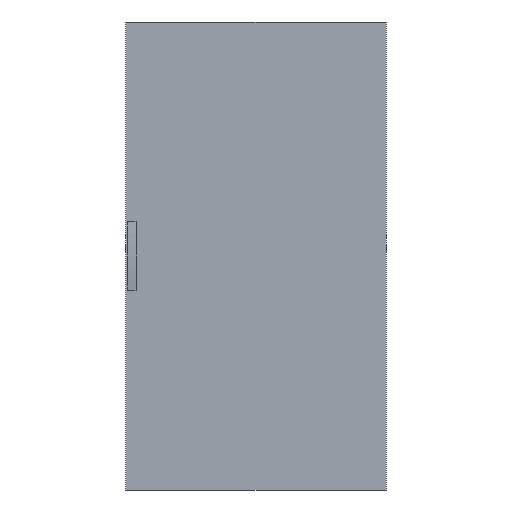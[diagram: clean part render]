
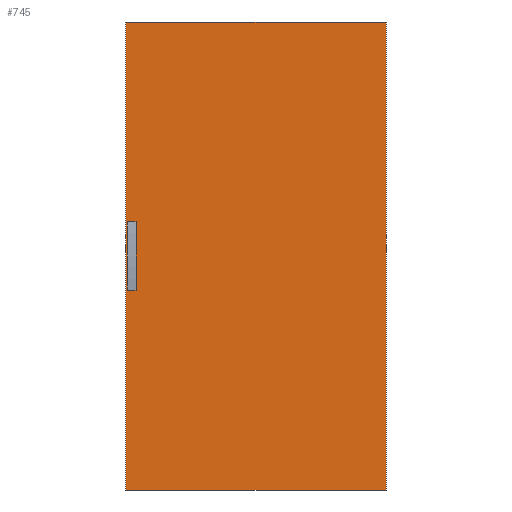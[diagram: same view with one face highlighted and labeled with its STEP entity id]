
A CAD part, front view. The second image highlights one B-rep face of the part: STEP entity #745.
In plain terms, the highlighted planar face has unit normal (0, -1, 0).
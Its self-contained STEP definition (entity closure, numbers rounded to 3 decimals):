
#21=DIRECTION('',(0.,0.,-1.));
#22=VECTOR('',#21,1784.);
#23=CARTESIAN_POINT('',(-496.,-2.,892.));
#24=LINE('',#23,#22);
#29=DIRECTION('',(-1.,0.,0.));
#30=VECTOR('',#29,992.);
#31=CARTESIAN_POINT('',(496.,-2.,892.));
#32=LINE('',#31,#30);
#36=DIRECTION('',(0.,0.,1.));
#37=VECTOR('',#36,1784.);
#38=CARTESIAN_POINT('',(496.,-2.,-892.));
#39=LINE('',#38,#37);
#43=DIRECTION('',(1.,0.,0.));
#44=VECTOR('',#43,992.);
#45=CARTESIAN_POINT('',(-496.,-2.,-892.));
#46=LINE('',#45,#44);
#50=CARTESIAN_POINT('',(-474.,-2.,123.));
#51=DIRECTION('',(0.,1.,0.));
#52=DIRECTION('',(1.,0.,0.));
#53=AXIS2_PLACEMENT_3D('',#50,#51,#52);
#58=CARTESIAN_POINT('',(-474.,-2.,123.));
#59=DIRECTION('',(0.,1.,0.));
#60=DIRECTION('',(0.,0.,1.));
#61=AXIS2_PLACEMENT_3D('',#58,#59,#60);
#66=CARTESIAN_POINT('',(-474.,-2.,123.));
#67=DIRECTION('',(0.,1.,0.));
#68=DIRECTION('',(0.,0.,-1.));
#69=AXIS2_PLACEMENT_3D('',#66,#67,#68);
#74=DIRECTION('',(1.,0.,0.));
#75=VECTOR('',#74,6.5);
#76=CARTESIAN_POINT('',(-486.5,-2.,25.));
#77=LINE('',#76,#75);
#81=DIRECTION('',(0.,0.,1.));
#82=VECTOR('',#81,50.);
#83=CARTESIAN_POINT('',(-486.5,-2.,-25.));
#84=LINE('',#83,#82);
#88=DIRECTION('',(-1.,0.,0.));
#89=VECTOR('',#88,6.5);
#90=CARTESIAN_POINT('',(-480.,-2.,-25.));
#91=LINE('',#90,#89);
#95=DIRECTION('',(0.,0.,1.));
#96=VECTOR('',#95,37.);
#97=CARTESIAN_POINT('',(-480.,-2.,-62.));
#98=LINE('',#97,#96);
#102=CARTESIAN_POINT('',(-474.,-2.,-62.));
#103=DIRECTION('',(0.,1.,0.));
#104=DIRECTION('',(0.,0.,-1.));
#105=AXIS2_PLACEMENT_3D('',#102,#103,#104);
#110=CARTESIAN_POINT('',(-474.,-2.,-62.));
#111=DIRECTION('',(0.,1.,0.));
#112=DIRECTION('',(1.,0.,0.));
#113=AXIS2_PLACEMENT_3D('',#110,#111,#112);
#118=DIRECTION('',(0.,0.,-1.));
#119=VECTOR('',#118,37.);
#120=CARTESIAN_POINT('',(-468.,-2.,-25.));
#121=LINE('',#120,#119);
#125=DIRECTION('',(-1.,0.,0.));
#126=VECTOR('',#125,6.5);
#127=CARTESIAN_POINT('',(-461.5,-2.,-25.));
#128=LINE('',#127,#126);
#132=DIRECTION('',(0.,0.,-1.));
#133=VECTOR('',#132,50.);
#134=CARTESIAN_POINT('',(-461.5,-2.,25.));
#135=LINE('',#134,#133);
#139=DIRECTION('',(1.,0.,0.));
#140=VECTOR('',#139,6.5);
#141=CARTESIAN_POINT('',(-468.,-2.,25.));
#142=LINE('',#141,#140);
#146=DIRECTION('',(0.,0.,-1.));
#147=VECTOR('',#146,37.);
#148=CARTESIAN_POINT('',(-468.,-2.,62.));
#149=LINE('',#148,#147);
#153=CARTESIAN_POINT('',(-474.,-2.,62.));
#154=DIRECTION('',(0.,1.,0.));
#155=DIRECTION('',(0.,0.,1.));
#156=AXIS2_PLACEMENT_3D('',#153,#154,#155);
#161=CARTESIAN_POINT('',(-474.,-2.,62.));
#162=DIRECTION('',(0.,1.,0.));
#163=DIRECTION('',(-1.,0.,0.));
#164=AXIS2_PLACEMENT_3D('',#161,#162,#163);
#169=DIRECTION('',(0.,0.,1.));
#170=VECTOR('',#169,37.);
#171=CARTESIAN_POINT('',(-480.,-2.,25.));
#172=LINE('',#171,#170);
#176=CARTESIAN_POINT('',(-474.,-2.,-123.));
#177=DIRECTION('',(0.,1.,0.));
#178=DIRECTION('',(1.,0.,0.));
#179=AXIS2_PLACEMENT_3D('',#176,#177,#178);
#184=CARTESIAN_POINT('',(-474.,-2.,-123.));
#185=DIRECTION('',(0.,1.,0.));
#186=DIRECTION('',(0.,0.,1.));
#187=AXIS2_PLACEMENT_3D('',#184,#185,#186);
#192=CARTESIAN_POINT('',(-474.,-2.,-123.));
#193=DIRECTION('',(0.,1.,0.));
#194=DIRECTION('',(0.,0.,-1.));
#195=AXIS2_PLACEMENT_3D('',#192,#193,#194);
#578=CARTESIAN_POINT('',(-496.,-2.,892.));
#579=CARTESIAN_POINT('',(-496.,-2.,-892.));
#580=VERTEX_POINT('',#578);
#581=VERTEX_POINT('',#579);
#582=CARTESIAN_POINT('',(496.,-2.,-892.));
#583=VERTEX_POINT('',#582);
#584=CARTESIAN_POINT('',(496.,-2.,892.));
#585=VERTEX_POINT('',#584);
#586=CARTESIAN_POINT('',(-486.5,-2.,25.));
#587=CARTESIAN_POINT('',(-480.,-2.,25.));
#588=VERTEX_POINT('',#586);
#589=VERTEX_POINT('',#587);
#590=CARTESIAN_POINT('',(-480.,-2.,62.));
#591=VERTEX_POINT('',#590);
#592=CARTESIAN_POINT('',(-474.,-2.,68.));
#593=CARTESIAN_POINT('',(-468.,-2.,62.));
#594=VERTEX_POINT('',#592);
#595=VERTEX_POINT('',#593);
#596=CARTESIAN_POINT('',(-468.,-2.,25.));
#597=VERTEX_POINT('',#596);
#598=CARTESIAN_POINT('',(-461.5,-2.,25.));
#599=VERTEX_POINT('',#598);
#600=CARTESIAN_POINT('',(-461.5,-2.,-25.));
#601=VERTEX_POINT('',#600);
#602=CARTESIAN_POINT('',(-468.,-2.,-25.));
#603=VERTEX_POINT('',#602);
#604=CARTESIAN_POINT('',(-468.,-2.,-62.));
#605=VERTEX_POINT('',#604);
#606=CARTESIAN_POINT('',(-474.,-2.,-68.));
#607=CARTESIAN_POINT('',(-480.,-2.,-62.));
#608=VERTEX_POINT('',#606);
#609=VERTEX_POINT('',#607);
#610=CARTESIAN_POINT('',(-480.,-2.,-25.));
#611=VERTEX_POINT('',#610);
#612=CARTESIAN_POINT('',(-486.5,-2.,-25.));
#613=VERTEX_POINT('',#612);
#665=CARTESIAN_POINT('',(-474.,-2.,-120.75));
#667=VERTEX_POINT('',#665);
#669=CARTESIAN_POINT('',(-474.,-2.,-125.25));
#671=VERTEX_POINT('',#669);
#672=CARTESIAN_POINT('',(-471.75,-2.,-123.));
#673=VERTEX_POINT('',#672);
#675=CARTESIAN_POINT('',(-474.,-2.,125.25));
#677=VERTEX_POINT('',#675);
#679=CARTESIAN_POINT('',(-474.,-2.,120.75));
#681=VERTEX_POINT('',#679);
#682=CARTESIAN_POINT('',(-471.75,-2.,123.));
#683=VERTEX_POINT('',#682);
#684=CARTESIAN_POINT('',(0.,-2.,0.));
#685=DIRECTION('',(0.,1.,0.));
#686=DIRECTION('',(0.,0.,1.));
#687=AXIS2_PLACEMENT_3D('',#684,#685,#686);
#688=PLANE('',#687);
#690=ORIENTED_EDGE('',*,*,#689,.F.);
#692=ORIENTED_EDGE('',*,*,#691,.F.);
#694=ORIENTED_EDGE('',*,*,#693,.F.);
#696=ORIENTED_EDGE('',*,*,#695,.F.);
#697=EDGE_LOOP('',(#690,#692,#694,#696));
#698=FACE_OUTER_BOUND('',#697,.F.);
#700=ORIENTED_EDGE('',*,*,#699,.F.);
#702=ORIENTED_EDGE('',*,*,#701,.F.);
#704=ORIENTED_EDGE('',*,*,#703,.F.);
#705=EDGE_LOOP('',(#700,#702,#704));
#706=FACE_BOUND('',#705,.F.);
#708=ORIENTED_EDGE('',*,*,#707,.F.);
#710=ORIENTED_EDGE('',*,*,#709,.F.);
#712=ORIENTED_EDGE('',*,*,#711,.F.);
#714=ORIENTED_EDGE('',*,*,#713,.F.);
#716=ORIENTED_EDGE('',*,*,#715,.F.);
#718=ORIENTED_EDGE('',*,*,#717,.F.);
#720=ORIENTED_EDGE('',*,*,#719,.F.);
#722=ORIENTED_EDGE('',*,*,#721,.F.);
#724=ORIENTED_EDGE('',*,*,#723,.F.);
#726=ORIENTED_EDGE('',*,*,#725,.F.);
#728=ORIENTED_EDGE('',*,*,#727,.F.);
#730=ORIENTED_EDGE('',*,*,#729,.F.);
#732=ORIENTED_EDGE('',*,*,#731,.F.);
#734=ORIENTED_EDGE('',*,*,#733,.F.);
#735=EDGE_LOOP('',(#708,#710,#712,#714,#716,#718,#720,#722,#724,#726,#728,#730,
#732,#734));
#736=FACE_BOUND('',#735,.F.);
#738=ORIENTED_EDGE('',*,*,#737,.F.);
#740=ORIENTED_EDGE('',*,*,#739,.F.);
#742=ORIENTED_EDGE('',*,*,#741,.F.);
#743=EDGE_LOOP('',(#738,#740,#742));
#744=FACE_BOUND('',#743,.F.);
#54=CIRCLE('',#53,2.25);
#62=CIRCLE('',#61,2.25);
#70=CIRCLE('',#69,2.25);
#106=CIRCLE('',#105,6.);
#114=CIRCLE('',#113,6.);
#157=CIRCLE('',#156,6.);
#165=CIRCLE('',#164,6.);
#180=CIRCLE('',#179,2.25);
#188=CIRCLE('',#187,2.25);
#196=CIRCLE('',#195,2.25);
#689=EDGE_CURVE('',#580,#581,#24,.T.);
#691=EDGE_CURVE('',#585,#580,#32,.T.);
#693=EDGE_CURVE('',#583,#585,#39,.T.);
#695=EDGE_CURVE('',#581,#583,#46,.T.);
#699=EDGE_CURVE('',#683,#681,#54,.T.);
#701=EDGE_CURVE('',#677,#683,#62,.T.);
#703=EDGE_CURVE('',#681,#677,#70,.T.);
#707=EDGE_CURVE('',#588,#589,#77,.T.);
#709=EDGE_CURVE('',#613,#588,#84,.T.);
#711=EDGE_CURVE('',#611,#613,#91,.T.);
#713=EDGE_CURVE('',#609,#611,#98,.T.);
#715=EDGE_CURVE('',#608,#609,#106,.T.);
#717=EDGE_CURVE('',#605,#608,#114,.T.);
#719=EDGE_CURVE('',#603,#605,#121,.T.);
#721=EDGE_CURVE('',#601,#603,#128,.T.);
#723=EDGE_CURVE('',#599,#601,#135,.T.);
#725=EDGE_CURVE('',#597,#599,#142,.T.);
#727=EDGE_CURVE('',#595,#597,#149,.T.);
#729=EDGE_CURVE('',#594,#595,#157,.T.);
#731=EDGE_CURVE('',#591,#594,#165,.T.);
#733=EDGE_CURVE('',#589,#591,#172,.T.);
#737=EDGE_CURVE('',#673,#671,#180,.T.);
#739=EDGE_CURVE('',#667,#673,#188,.T.);
#741=EDGE_CURVE('',#671,#667,#196,.T.);
#745=ADVANCED_FACE('',(#698,#706,#736,#744),#688,.F.);
